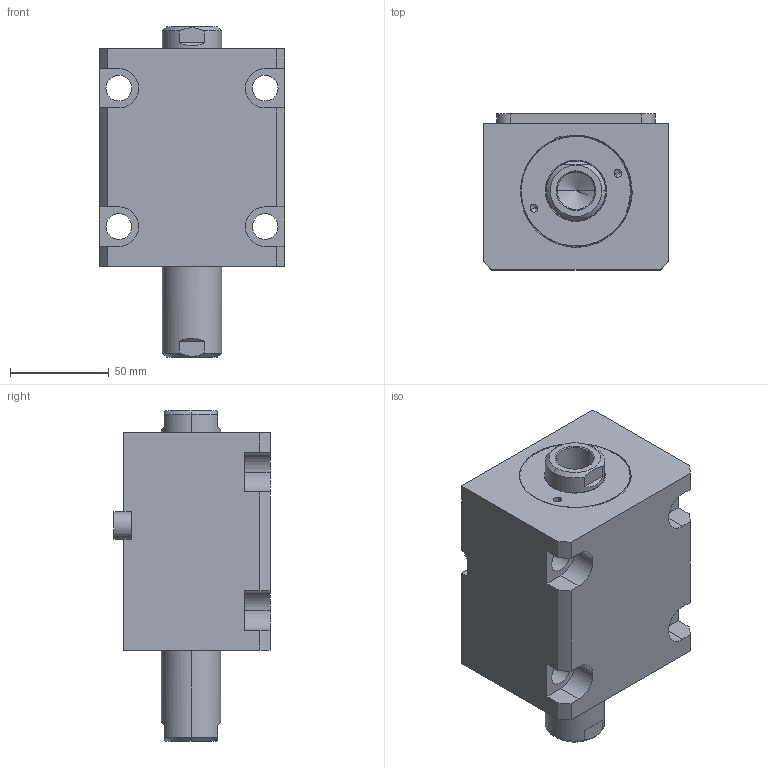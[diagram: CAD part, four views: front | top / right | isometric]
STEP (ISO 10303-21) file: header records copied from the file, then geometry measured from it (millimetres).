
FILE_DESCRIPTION (( 'STEP AP203' ), '1' );
FILE_NAME ('CHTB-LWM50-35N.STEP', '2018-05-22T08:22:39', ( '' ), ( '' ), 'SwSTEP 2.0', 'SolidWorks 2015', '' );
FILE_SCHEMA (( 'CONFIG_CONTROL_DESIGN' ));
Length unit declared in the file: millimetre
Products named in the file (4): CHTM-SDMA50QG; CHTB-LWM50-35N; 活塞杆LWM50-35N; 掛极LWM50-35N
Assembly tree (3 placements, depth 2):
  CHTB-LWM50-35N
    掛极LWM50-35N
    活塞杆LWM50-35N
    CHTM-SDMA50QG
Bounding box: 94 x 79 x 167 mm (x, y, z)
Volume: 690158.1 mm3; surface area: 117532.6 mm2
Topology: 3 solids, 3 shells, 213 faces, 571 edges, 374 vertices
Faces by surface type: cylinder 104, plane 57, cone 22, torus 16, bspline 14
Entity records: 11569 total; most frequent: CARTESIAN_POINT 6050, ORIENTED_EDGE 1126, DIRECTION 1011, EDGE_CURVE 563, AXIS2_PLACEMENT_3D 396, VERTEX_POINT 374, EDGE_LOOP 247, VECTOR 219
